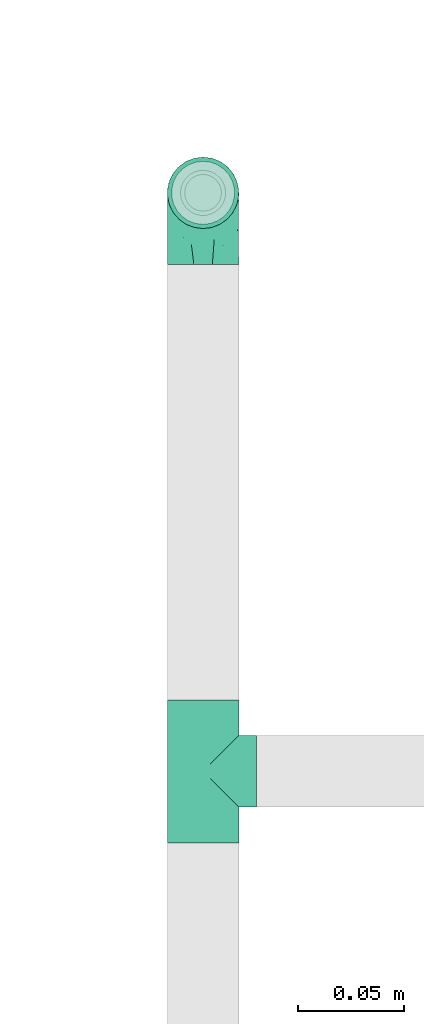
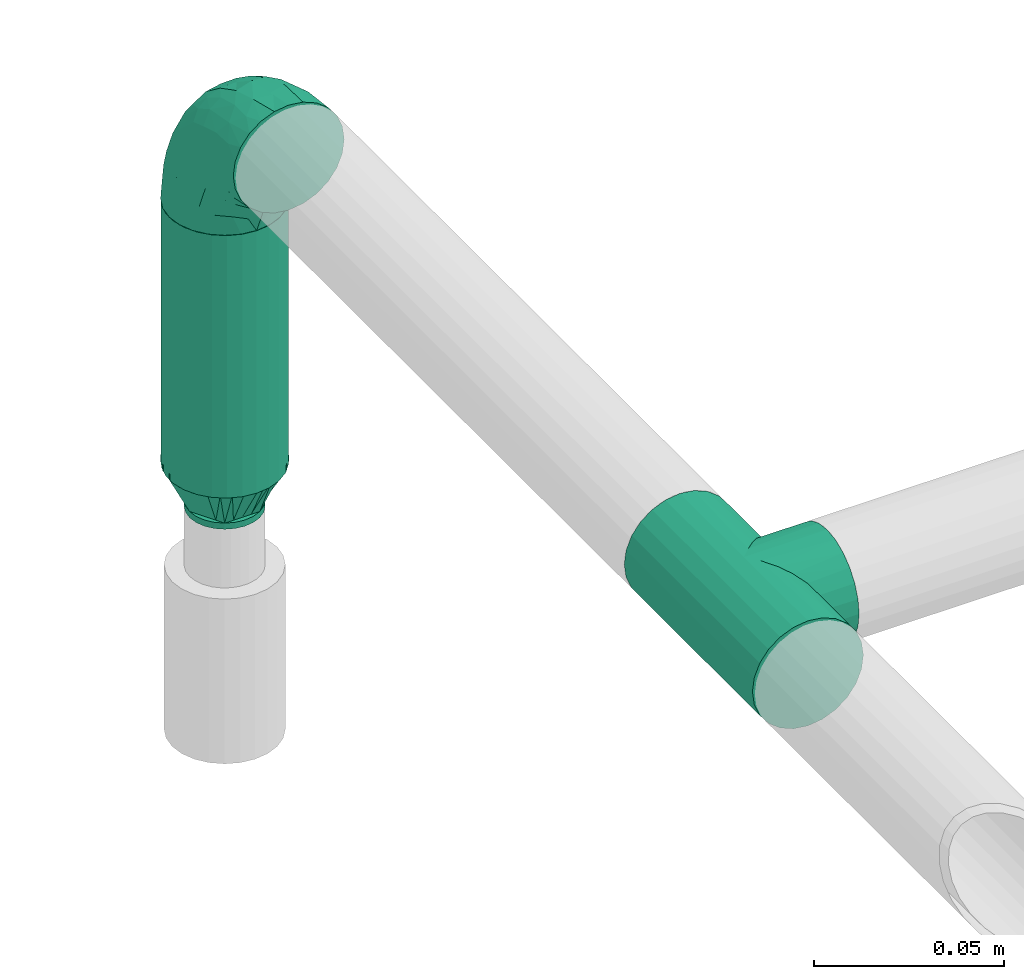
# One storey, part 37 of 43: 3 flow fittings, 1 flow segment.
"""IFC2X3 building model written with IfcOpenShell, lengths in millimetres."""

from ifc_helpers import new_model, entity, si_unit, converted_unit, derived_unit, direction, frame, origin_with_axes, origin_2d_with_axis, place, context, subcontext, project, spatial, hollow_circle, extrude, open_shell, surface_model, source, transform, mapped, type_object, element, save


model = new_model("IFC2X3")

# Units and contexts
model_context = context("Model", 3, precision=0.01, world=frame((0.0, 4.29681676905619e-09, 0.0)), true_north=direction((4.01073788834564e-13, 1.0)))
plan_context = context("Plan", 3, precision=0.01, world=frame((0.0, 4.29681676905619e-09, 0.0)), true_north=direction((4.01073788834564e-13, 1.0)))
body_context = subcontext(model_context, "Body", "Model", "MODEL_VIEW")
ifc_project = project(units=[converted_unit("PLANEANGLEUNIT", "DEGREE", entity("IfcPositiveLengthMeasure", 0.0174532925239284), si_unit("PLANEANGLEUNIT", "RADIAN"), dimensions=[0, 0, 0, 0, 0, 0, 0]), si_unit("AREAUNIT", "SQUARE_METRE"), si_unit("LENGTHUNIT", "METRE", prefix="MILLI"), si_unit("MASSUNIT", "GRAM", prefix="KILO"), si_unit("POWERUNIT", "WATT"), si_unit("PRESSUREUNIT", "PASCAL"), si_unit("FORCEUNIT", "NEWTON", prefix="KILO"), si_unit("ELECTRICVOLTAGEUNIT", "VOLT"), si_unit("ELECTRICCURRENTUNIT", "AMPERE"), si_unit("THERMODYNAMICTEMPERATUREUNIT", "DEGREE_CELSIUS"), si_unit("TIMEUNIT", "SECOND"), si_unit("VOLUMEUNIT", "CUBIC_METRE"), derived_unit("LINEARVELOCITYUNIT", [(si_unit("LENGTHUNIT", "METRE"), 1), (si_unit("TIMEUNIT", "SECOND"), -1)]), derived_unit("VOLUMETRICFLOWRATEUNIT", [(si_unit("VOLUMEUNIT", "CUBIC_METRE"), 1), (si_unit("TIMEUNIT", "SECOND"), -1)]), derived_unit("THERMALTRANSMITTANCEUNIT", [(si_unit("POWERUNIT", "WATT"), 1), (si_unit("THERMODYNAMICTEMPERATUREUNIT", "KELVIN"), -1), (si_unit("AREAUNIT", "SQUARE_METRE"), -1)]), derived_unit("SOUNDPRESSUREUNIT", [(si_unit("PRESSUREUNIT", "PASCAL"), 1)])], contexts=[model_context, plan_context])

# Site, building, storey
site_placement = place(None, frame((0.0, -4.29681676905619e-09, 0.0), z_axis=(0.0, 0.0, 1.0), x_axis=(1.0, 0.0, 0.0)))
site = spatial("IfcSite", under=ifc_project, at=site_placement, CompositionType="ELEMENT")
building_placement = place(site_placement, frame((0.0, 4.29681676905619e-09, 0.0), z_axis=(0.0, 0.0, 1.0), x_axis=(1.0, 0.0, 0.0)))
building = spatial("IfcBuilding", under=site, at=building_placement, Name="mc-building", CompositionType="ELEMENT")
storey_placement = place(building_placement, frame((0.0, 0.0, 210900.0), z_axis=(0.0, 0.0, 1.0), x_axis=(1.0, 0.0, 0.0)))
storey = spatial("IfcBuildingStorey", under=building, at=storey_placement, Name="Nivå F", CompositionType="ELEMENT", Elevation=210900.0)

# Flow fittings
pipe_fitting_type_1 = type_object("IfcPipeFittingType", Name="magi_pipe_fe_elbow_short_001", PredefinedType="BEND")
shared_shape_1 = source(origin_with_axes(), body_context, "Body", "SurfaceModel", [
    surface_model("IfcShellBasedSurfaceModel", [(-33.8, 4.37404, -16.32415), (-33.8, 0.0, -16.9), (-33.8, 11.9501, -11.9501), (-33.8, 8.45, -14.63583), (-33.8, 16.32415, -4.37404), (-33.8, 14.63583, -8.45), (-33.8, -14.63583, -8.45), (-33.8, -16.32415, -4.37404), (-33.8, -8.45, 14.63583), (-33.8, -11.9501, -11.9501), (-33.8, -8.45, -14.63583), (-33.8, -4.37404, -16.32415), (-33.8, -16.9, 0.0), (-33.8, -16.32415, 4.37404), (-33.8, 11.9501, 11.9501), (-33.8, 14.63583, 8.45), (-33.8, 16.32415, 4.37404), (-33.8, 4.37404, 16.32415), (-33.8, 8.45, 14.63583), (-33.8, -14.63583, 8.45), (-33.8, -11.9501, 11.9501), (-33.8, -4.37404, 16.32415), (-33.8, 0.0, 16.9), (-33.8, 16.9, 0.0), (-11.9501, 33.8, -11.9501), (0.0, 33.8, -16.9), (-4.37404, 33.8, -16.32415), (-8.45, 33.8, -14.63583), (-14.63583, 33.8, -8.45), (-16.32415, 33.8, -4.37404), (14.63583, 33.8, -8.45), (8.45, 33.8, 14.63583), (16.32415, 33.8, -4.37404), (8.45, 33.8, -14.63583), (11.9501, 33.8, -11.9501), (4.37404, 33.8, -16.32415), (16.32415, 33.8, 4.37404), (16.9, 33.8, 0.0), (-11.9501, 33.8, 11.9501), (-16.32415, 33.8, 4.37404), (-14.63583, 33.8, 8.45), (-8.45, 33.8, 14.63583), (-4.37404, 33.8, 16.32415), (11.9501, 33.8, 11.9501), (14.63583, 33.8, 8.45), (0.0, 33.8, 16.9), (4.37404, 33.8, 16.32415), (-16.9, 33.8, 0.0), (-24.79389, -13.12945, 9.48721), (-22.19287, -9.75018, 12.59315), (-24.09897, -14.97035, 0.0), (-14.93934, -10.76256, 8.5297), (-22.46095, -14.75051, 5.27077), (14.75051, 22.46094, 5.27077), (11.9251, 13.23888, 4.33236), (13.04069, 14.39795, 0.0), (7.71387, 13.68847, 11.55891), (9.75018, 22.19287, 12.59315), (4.10169, 13.0571, 14.04018), (-24.84007, -6.39063, 15.2048), (-25.81779, -2.23879, 16.61097), (-23.66549, 2.59054, 16.87119), (-26.50418, 14.06512, 11.08152), (-24.21253, 17.66365, 7.72657), (-29.58514, 15.86957, 7.00283), (-6.17382, -7.5455, 0.0), (-13.23888, -11.9251, 4.33236), (-14.39795, -13.04069, 0.0), (-17.81434, 18.87373, 11.97104), (-6.30846, 29.15138, 15.82987), (-2.31622, 25.28002, 16.85849), (-29.23923, 10.23435, 13.77053), (-1.45439, -2.85688, 7.61475), (-0.28326, 0.34872, 10.09509), (-5.74484, -4.04709, 10.4122), (-4.41137, 11.31918, 16.59407), (-8.39727, 3.10034, 15.7812), (-1.72649, 9.1306, 15.53089), (-17.39909, 24.75344, 7.64977), (-26.19233, 20.0512, 0.0), (-28.14518, 17.29657, 4.25857), (-26.05147, 6.6281, 15.96447), (-5.87354, 16.61944, 16.86968), (-12.51807, 12.51807, 16.48937), (-10.06312, 7.38516, 16.81295), (-3.01882, 3.01882, 13.81718), (-13.0571, -4.10169, 14.04018), (-16.82553, -0.15166, 16.38038), (10.76256, 14.93934, 8.5297), (13.12945, 24.79389, 9.48721), (6.39063, 24.84007, 15.2048), (2.23879, 25.81779, 16.61097), (-13.68847, -7.71387, 11.55891), (14.97035, 24.09897, 0.0), (-7.30894, 22.89991, 16.09489), (-10.67958, 26.17414, 14.008), (-12.78295, 18.26924, 15.06066), (-13.88562, 22.45231, 12.93244), (-18.04944, 15.16501, 14.04434), (-23.11658, 20.08178, 4.02986), (-21.84989, 21.84989, 0.0), (-18.55817, 25.48277, 3.93065), (-13.95142, 26.94732, 11.03289), (-18.57098, 7.23906, 16.59756), (-16.58335, 4.14122, 16.89279), (-17.96666, 11.46709, 15.63151), (-9.84453, 17.54304, 16.18938), (0.15166, 16.82553, 16.38038), (-23.27207, 11.47201, 14.23154), (3.84842, 5.86994, 10.70473), (-8.0212, -7.54413, 7.93275), (1.00345, -2.19508, 4.57414), (5.13203, 3.01004, 5.90201), (5.24161, 1.7543, 2.53265), (8.70457, 7.04947, 3.99182), (-20.0512, 26.19233, 0.0), (8.4852, 8.76699, 7.09296), (-4.55488, -6.72064, 4.90681), (2.05031, -2.05031, 0.0), (7.5455, 6.17382, 0.0), (-26.75399, 2.1369, -16.845), (-14.61995, 24.73803, -11.27736), (-28.45274, -13.45335, -9.81895), (-26.00469, 6.63555, -15.96645), (-23.06726, 20.04573, -4.26202), (-13.80647, -4.26506, -14.17873), (-14.67501, -0.21081, -16.07388), (-6.7902, -0.2828, -13.8478), (-24.53586, 11.08096, -14.13417), (-26.72048, 14.00837, -11.05776), (10.0967, 24.44989, -12.75976), (5.83237, 21.40218, -15.03047), (6.66249, 28.54238, -15.38093), (-20.38182, 15.48705, -12.74596), (-15.65186, 19.64213, -13.01327), (-12.03528, 20.66498, -14.67665), (-15.61907, 15.61906, -14.83879), (-25.56551, -15.26206, 0.0), (-24.65452, -15.12934, -5.50955), (12.53268, 21.23441, -9.15363), (13.45335, 28.45274, -9.81895), (15.12934, 24.65452, -5.50955), (-7.35442, -8.31014, -5.65563), (-15.67504, -12.54494, -5.54878), (-24.44989, -10.0967, -12.75976), (0.16522, 0.41303, -9.71728), (-5.70658, -5.33066, -8.89288), (-5.13869, -2.37198, -11.53565), (-21.23441, -12.53268, -9.15363), (0.71146, 7.93863, -14.09382), (0.21081, 14.67501, -16.07388), (3.49291, 14.42772, -14.76381), (-24.89911, -2.13088, -16.591), (-28.54238, -6.66249, -15.38093), (-18.44386, -7.71663, -13.26957), (2.13088, 24.89911, -16.591), (-28.64342, 17.44413, -2.89318), (1.70017, -1.28722, -5.09504), (-16.57067, 26.81947, -7.36596), (-17.69055, 27.4263, -3.76405), (-12.89279, -9.7522, -8.66343), (-5.96611, 5.96611, -15.95814), (-20.53709, 20.09345, -8.28985), (-2.1369, 26.75399, -16.845), (-6.89872, 24.58781, -16.02578), (-10.60739, 26.53157, -13.98044), (-21.40218, -5.83237, -15.03047), (2.93192, 5.89627, -11.55917), (6.89393, 12.61842, -11.82233), (5.58056, 5.95325, -8.79455), (-3.99512, 18.61798, -16.89635), (-9.1383, 9.86148, -16.89041), (-9.99983, 16.02119, -16.39699), (-16.68576, 9.78031, -16.34199), (-27.01915, 16.61158, -7.12979), (15.26206, 25.56551, 0.0), (-18.61798, 3.99512, -16.89635), (-19.37495, 27.82495, 0.0), (9.7522, 12.89279, -8.66343), (-12.61842, -6.89393, -11.82233), (8.31014, 7.35442, -5.65563), (-18.84705, 19.14018, -10.96545), (12.54494, 15.67504, -5.54878)], [open_shell([[[0, 1, 2]], [[3, 0, 2]], [[4, 5, 2]], [[6, 2, 1]], [[2, 7, 8]], [[9, 6, 10]], [[1, 11, 10]], [[10, 6, 1]], [[2, 6, 7]], [[12, 13, 7]], [[4, 2, 14]], [[4, 15, 16]], [[4, 14, 15]], [[17, 18, 14]], [[14, 2, 8]], [[17, 14, 8]], [[19, 20, 13]], [[20, 7, 13]], [[21, 22, 8]], [[20, 8, 7]], [[8, 22, 17]], [[4, 16, 23]], [[24, 25, 26]], [[24, 26, 27]], [[24, 28, 29]], [[25, 24, 30]], [[31, 32, 24]], [[33, 30, 34]], [[33, 35, 25]], [[25, 30, 33]], [[32, 30, 24]], [[32, 36, 37]], [[38, 24, 29]], [[39, 40, 29]], [[40, 38, 29]], [[38, 41, 42]], [[38, 31, 24]], [[31, 38, 42]], [[36, 43, 44]], [[36, 32, 43]], [[31, 45, 46]], [[32, 31, 43]], [[42, 45, 31]], [[39, 29, 47]], [[20, 48, 49]], [[13, 12, 50]], [[51, 48, 52]], [[53, 54, 55]], [[48, 20, 19]], [[13, 52, 19]], [[56, 57, 58]], [[49, 8, 20]], [[49, 59, 8]], [[22, 60, 61]], [[62, 63, 64]], [[65, 66, 67]], [[57, 43, 31]], [[62, 68, 63]], [[42, 69, 70]], [[18, 71, 14]], [[21, 60, 22]], [[72, 73, 74]], [[75, 76, 77]], [[14, 62, 15]], [[40, 39, 78]], [[79, 23, 80]], [[64, 16, 15]], [[22, 61, 17]], [[17, 81, 18]], [[82, 83, 84]], [[74, 85, 86]], [[59, 86, 87]], [[88, 89, 57]], [[90, 31, 46]], [[44, 53, 36]], [[46, 45, 91]], [[54, 53, 88]], [[44, 89, 53]], [[92, 86, 49]], [[89, 44, 43]], [[8, 59, 21]], [[53, 55, 93]], [[93, 36, 53]], [[66, 52, 67]], [[94, 82, 70]], [[95, 96, 94]], [[97, 98, 96]], [[79, 99, 100]], [[41, 38, 95]], [[101, 100, 99]], [[68, 78, 63]], [[42, 41, 69]], [[23, 16, 80]], [[95, 94, 69]], [[78, 101, 99]], [[38, 102, 95]], [[70, 45, 42]], [[97, 95, 102]], [[13, 50, 52]], [[90, 57, 31]], [[57, 90, 58]], [[81, 17, 61]], [[103, 104, 84]], [[105, 81, 103]], [[38, 40, 102]], [[106, 96, 83]], [[94, 106, 82]], [[91, 70, 107]], [[71, 62, 14]], [[62, 108, 98]], [[86, 59, 49]], [[67, 52, 50]], [[60, 59, 87]], [[92, 49, 51]], [[86, 85, 76]], [[91, 90, 46]], [[37, 36, 93]], [[107, 77, 58]], [[107, 58, 90]], [[58, 85, 109]], [[110, 74, 92]], [[72, 74, 110]], [[66, 51, 52]], [[72, 111, 112]], [[113, 114, 112]], [[56, 88, 57]], [[52, 48, 19]], [[49, 48, 51]], [[57, 89, 43]], [[53, 89, 88]], [[103, 81, 61]], [[71, 81, 108]], [[16, 64, 80]], [[63, 78, 99]], [[47, 115, 101]], [[101, 115, 100]], [[40, 78, 102]], [[68, 102, 78]], [[97, 96, 95]], [[105, 98, 108]], [[103, 84, 83]], [[107, 70, 82]], [[76, 84, 87]], [[82, 84, 75]], [[70, 91, 45]], [[90, 91, 107]], [[59, 60, 21]], [[61, 60, 87]], [[73, 85, 74]], [[109, 112, 116]], [[103, 61, 104]], [[105, 103, 83]], [[96, 105, 83]], [[81, 105, 108]], [[96, 98, 105]], [[62, 98, 68]], [[61, 87, 104]], [[87, 84, 104]], [[86, 76, 87]], [[77, 76, 85]], [[58, 77, 85]], [[75, 77, 107]], [[82, 75, 107]], [[76, 75, 84]], [[81, 71, 18]], [[62, 71, 108]], [[95, 69, 41]], [[70, 69, 94]], [[62, 64, 15]], [[80, 63, 99]], [[63, 80, 64]], [[80, 99, 79]], [[66, 65, 117]], [[110, 66, 117]], [[112, 114, 116]], [[118, 117, 65]], [[110, 92, 51]], [[112, 111, 113]], [[119, 55, 54]], [[74, 86, 92]], [[58, 109, 56]], [[116, 56, 109]], [[66, 110, 51]], [[72, 110, 117]], [[111, 72, 117]], [[73, 112, 109]], [[117, 118, 111]], [[113, 111, 118]], [[118, 119, 113]], [[114, 119, 54]], [[119, 114, 113]], [[116, 54, 88]], [[54, 116, 114]], [[116, 88, 56]], [[112, 73, 72]], [[85, 73, 109]], [[78, 39, 101]], [[47, 101, 39]], [[102, 68, 97]], [[97, 68, 98]], [[82, 106, 83]], [[94, 96, 106]], [[0, 120, 1]], [[28, 24, 121]], [[9, 122, 6]], [[3, 123, 0]], [[100, 124, 79]], [[125, 126, 127]], [[128, 2, 129]], [[130, 131, 132]], [[128, 129, 133]], [[134, 135, 136]], [[128, 3, 2]], [[67, 137, 138]], [[139, 140, 141]], [[138, 7, 6]], [[142, 65, 143]], [[144, 9, 10]], [[145, 146, 147]], [[143, 138, 148]], [[149, 150, 151]], [[152, 11, 1]], [[10, 153, 144]], [[148, 144, 154]], [[153, 10, 11]], [[35, 155, 25]], [[23, 79, 156]], [[146, 157, 142]], [[158, 159, 29]], [[143, 160, 142]], [[161, 150, 149]], [[29, 28, 158]], [[121, 162, 158]], [[33, 34, 130]], [[25, 163, 26]], [[26, 163, 164]], [[140, 34, 30]], [[24, 27, 165]], [[124, 159, 162]], [[155, 35, 132]], [[153, 152, 166]], [[123, 3, 128]], [[167, 168, 169]], [[170, 155, 150]], [[26, 164, 27]], [[132, 35, 33]], [[140, 130, 34]], [[166, 152, 126]], [[133, 134, 136]], [[2, 5, 129]], [[168, 131, 130]], [[30, 32, 141]], [[170, 171, 172]], [[173, 123, 128]], [[156, 174, 4]], [[165, 27, 164]], [[172, 164, 170]], [[134, 165, 135]], [[122, 138, 6]], [[137, 12, 7]], [[32, 37, 175]], [[168, 130, 139]], [[150, 155, 131]], [[163, 155, 170]], [[151, 168, 149]], [[150, 161, 171]], [[166, 125, 154]], [[122, 144, 148]], [[120, 152, 1]], [[176, 171, 126]], [[176, 126, 152]], [[126, 161, 127]], [[160, 143, 148]], [[137, 7, 138]], [[32, 175, 141]], [[55, 141, 175]], [[174, 129, 5]], [[128, 133, 136]], [[173, 128, 136]], [[120, 123, 176]], [[121, 158, 28]], [[159, 100, 177]], [[164, 172, 135]], [[121, 24, 165]], [[159, 47, 29]], [[79, 124, 156]], [[124, 162, 174]], [[159, 124, 100]], [[178, 169, 168]], [[127, 161, 149]], [[145, 169, 157]], [[146, 142, 160]], [[127, 149, 167]], [[127, 179, 125]], [[129, 174, 162]], [[5, 4, 174]], [[157, 65, 142]], [[67, 138, 143]], [[123, 120, 0]], [[152, 120, 176]], [[155, 163, 25]], [[164, 163, 170]], [[170, 150, 171]], [[173, 136, 172]], [[126, 171, 161]], [[173, 171, 176]], [[171, 173, 172]], [[123, 173, 176]], [[148, 179, 160]], [[127, 147, 179]], [[179, 146, 160]], [[157, 146, 145]], [[169, 178, 180]], [[168, 139, 178]], [[157, 169, 180]], [[169, 145, 167]], [[167, 145, 147]], [[149, 168, 167]], [[162, 181, 129]], [[181, 121, 134]], [[179, 147, 146]], [[167, 147, 127]], [[181, 134, 133]], [[165, 134, 121]], [[164, 135, 165]], [[172, 136, 135]], [[129, 181, 133]], [[121, 181, 162]], [[159, 158, 162]], [[47, 159, 177]], [[174, 156, 124]], [[23, 156, 4]], [[130, 132, 33]], [[155, 132, 131]], [[141, 140, 30]], [[130, 140, 139]], [[152, 153, 11]], [[144, 153, 166]], [[144, 122, 9]], [[138, 122, 148]], [[150, 131, 151]], [[157, 119, 118]], [[67, 143, 65]], [[168, 151, 131]], [[119, 157, 180]], [[157, 118, 65]], [[154, 125, 179]], [[126, 125, 166]], [[148, 154, 179]], [[166, 154, 144]], [[139, 182, 178]], [[141, 182, 139]], [[178, 182, 180]], [[182, 55, 119]], [[141, 55, 182]], [[182, 119, 180]]])]),
])
flow_fitting_1_placement = place(storey_placement, frame((609473.7578, 698191.25347, 2660.0), z_axis=(1.0, 0.0, 0.0), x_axis=(0.0, 0.0, 1.0)))
element("IfcFlowFitting", 1, at=flow_fitting_1_placement, inside=storey, type_object=pipe_fitting_type_1, Name="magi_pipe_fe_elbow_short_001", context=body_context, shape_type="MappedRepresentation", body=[
    mapped(shared_shape_1, transform((0.0, 0.0, 0.0), scale=1.0)),
])
pipe_fitting_type_2 = type_object("IfcPipeFittingType", Name="magi_pipe_fe_tee_centric_90_NOR", PredefinedType="JUNCTION")
shared_shape_2 = source(origin_with_axes(), body_context, "Body", "SurfaceModel", [
    surface_model("IfcShellBasedSurfaceModel", [(-33.8, 8.45, -14.63583), (-33.8, 4.37404, -16.32415), (-33.8, 11.9501, -11.9501), (-33.8, -11.9501, -11.9501), (-33.8, -14.63583, -8.45), (-33.8, -8.45, -14.63583), (-33.8, 0.0, -16.9), (-33.8, -4.37404, -16.32415), (-33.8, -4.37404, 16.32415), (-33.8, 0.0, 16.9), (-33.8, -8.45, 14.63583), (-33.8, 16.32415, -4.37404), (-33.8, 14.63583, -8.45), (-33.8, -16.9, 0.0), (-33.8, -16.32415, -4.37404), (-33.8, 14.63583, 8.45), (-33.8, 16.32415, 4.37404), (-33.8, 8.45, 14.63583), (-33.8, 11.9501, 11.9501), (-33.8, 4.37404, 16.32415), (-33.8, -11.9501, 11.9501), (-33.8, -14.63583, 8.45), (-33.8, -16.32415, 4.37404), (-33.8, 16.9, 0.0), (33.8, 4.37404, -16.32415), (33.8, -16.9, 0.0), (33.8, 0.0, -16.9), (33.8, 14.63583, -8.45), (33.8, 8.45, -14.63583), (33.8, 16.32415, -4.37404), (33.8, 11.9501, -11.9501), (33.8, -16.32415, 4.37404), (33.8, -8.45, -14.63583), (33.8, -4.37404, -16.32415), (33.8, -11.9501, -11.9501), (33.8, -14.63583, -8.45), (33.8, -16.32415, -4.37404), (33.8, 16.32415, 4.37404), (33.8, 8.45, 14.63583), (33.8, 14.63583, 8.45), (33.8, 11.9501, 11.9501), (33.8, -8.45, 14.63583), (33.8, 4.37404, 16.32415), (33.8, -14.63583, 8.45), (33.8, -11.9501, 11.9501), (33.8, 0.0, 16.9), (33.8, -4.37404, 16.32415), (33.8, 16.9, 0.0), (16.28698, -16.28698, 4.51047), (16.9, -16.9, 0.0), (14.62704, -14.62704, 8.4652), (9.47213, -9.47213, 13.99602), (12.26343, -12.26343, 11.62834), (-16.9, -16.9, 0.0), (-16.28698, -16.28698, 4.51047), (-14.62704, -14.62704, 8.4652), (-12.26343, -12.26343, 11.62834), (-9.47213, -9.47213, 13.99602), (-6.42894, -6.42894, 15.62942), (6.42894, -6.42894, 15.62942), (3.24522, -3.24522, 16.58549), (0.0, 0.0, 16.9), (-3.24522, -3.24522, 16.58549), (3.24522, -3.24522, -16.58549), (0.0, 0.0, -16.9), (-3.24522, -3.24522, -16.58549), (-6.42894, -6.42894, -15.62942), (6.42894, -6.42894, -15.62942), (9.47213, -9.47213, -13.99602), (12.26343, -12.26343, -11.62834), (14.62704, -14.62704, -8.4652), (16.28698, -16.28698, -4.51047), (-9.47213, -9.47213, -13.99602), (-12.26343, -12.26343, -11.62834), (-16.28698, -16.28698, -4.51047), (-14.62704, -14.62704, -8.4652), (4.37404, -25.35, -16.32415), (-16.9, -25.35, 0.0), (0.0, -25.35, -16.9), (14.63583, -25.35, -8.45), (8.45, -25.35, -14.63583), (16.32415, -25.35, -4.37404), (11.9501, -25.35, -11.9501), (-11.9501, -25.35, -11.9501), (-8.45, -25.35, -14.63583), (-4.37404, -25.35, -16.32415), (-14.63583, -25.35, -8.45), (-16.32415, -25.35, -4.37404), (16.9, -25.35, 0.0), (8.45, -25.35, 14.63583), (16.32415, -25.35, 4.37404), (14.63583, -25.35, 8.45), (-8.45, -25.35, 14.63583), (11.9501, -25.35, 11.9501), (4.37404, -25.35, 16.32415), (-16.32415, -25.35, 4.37404), (-11.9501, -25.35, 11.9501), (-14.63583, -25.35, 8.45), (0.0, -25.35, 16.9), (-4.37404, -25.35, 16.32415)], [open_shell([[[0, 1, 2]], [[3, 4, 5]], [[6, 7, 5]], [[8, 9, 10]], [[1, 6, 11]], [[1, 11, 12]], [[2, 1, 12]], [[13, 11, 6]], [[14, 13, 4]], [[6, 5, 4]], [[6, 4, 13]], [[13, 15, 11]], [[15, 16, 11]], [[10, 15, 13]], [[15, 10, 17]], [[18, 15, 17]], [[19, 17, 9]], [[20, 10, 21]], [[22, 21, 10]], [[10, 13, 22]], [[10, 9, 17]], [[23, 11, 16]], [[24, 25, 26]], [[27, 24, 28]], [[27, 29, 24]], [[27, 28, 30]], [[31, 25, 24]], [[26, 32, 33]], [[26, 34, 32]], [[35, 25, 36]], [[35, 34, 26]], [[25, 35, 26]], [[24, 29, 31]], [[29, 37, 38]], [[38, 37, 39]], [[38, 31, 29]], [[38, 39, 40]], [[41, 38, 42]], [[43, 41, 44]], [[41, 43, 31]], [[41, 45, 46]], [[41, 31, 38]], [[42, 45, 41]], [[29, 47, 37]], [[31, 43, 48]], [[25, 31, 49]], [[49, 31, 48]], [[43, 50, 48]], [[44, 41, 51]], [[50, 43, 52]], [[51, 52, 44]], [[52, 43, 44]], [[53, 54, 22]], [[53, 22, 13]], [[22, 54, 21]], [[54, 55, 21]], [[56, 57, 20]], [[20, 21, 56]], [[20, 57, 10]], [[56, 21, 55]], [[10, 57, 58]], [[51, 41, 59]], [[60, 45, 61]], [[59, 46, 60]], [[46, 59, 41]], [[60, 46, 45]], [[61, 45, 42]], [[39, 37, 16]], [[18, 38, 40]], [[15, 40, 39]], [[42, 38, 17]], [[23, 37, 47]], [[62, 61, 9]], [[62, 8, 58]], [[8, 62, 9]], [[58, 8, 10]], [[61, 19, 9]], [[42, 19, 61]], [[17, 19, 42]], [[17, 38, 18]], [[15, 18, 40]], [[16, 15, 39]], [[37, 23, 16]], [[12, 27, 30]], [[23, 47, 29]], [[30, 28, 0]], [[27, 11, 29]], [[26, 33, 63]], [[26, 64, 24]], [[64, 26, 63]], [[28, 24, 1]], [[64, 1, 24]], [[2, 30, 0]], [[11, 27, 12]], [[12, 30, 2]], [[11, 23, 29]], [[65, 66, 7]], [[6, 1, 64]], [[6, 65, 7]], [[66, 5, 7]], [[1, 0, 28]], [[6, 64, 65]], [[63, 33, 67]], [[32, 34, 68]], [[69, 68, 34]], [[35, 70, 69]], [[69, 34, 35]], [[32, 68, 67]], [[36, 25, 49]], [[36, 71, 35]], [[71, 36, 49]], [[35, 71, 70]], [[72, 5, 66]], [[72, 3, 5]], [[3, 72, 73]], [[3, 73, 4]], [[74, 53, 14]], [[75, 74, 4]], [[74, 14, 4]], [[14, 53, 13]], [[75, 4, 73]], [[32, 67, 33]], [[76, 77, 78]], [[79, 76, 80]], [[79, 81, 76]], [[79, 80, 82]], [[77, 76, 81]], [[78, 83, 84]], [[84, 85, 78]], [[86, 77, 87]], [[83, 78, 86]], [[77, 86, 78]], [[81, 88, 77]], [[89, 88, 90]], [[89, 90, 91]], [[92, 77, 89]], [[89, 91, 93]], [[92, 89, 94]], [[95, 96, 97]], [[96, 95, 92]], [[92, 98, 99]], [[95, 77, 92]], [[94, 98, 92]], [[89, 77, 88]], [[77, 95, 53]], [[54, 53, 95]], [[97, 96, 56]], [[96, 92, 57]], [[95, 97, 54]], [[58, 92, 99]], [[55, 54, 97]], [[56, 55, 97]], [[58, 57, 92]], [[98, 61, 62]], [[58, 99, 62]], [[56, 96, 57]], [[62, 99, 98]], [[94, 60, 98]], [[89, 59, 94]], [[91, 90, 48]], [[52, 93, 91]], [[93, 51, 89]], [[49, 90, 88]], [[59, 60, 94]], [[51, 59, 89]], [[49, 48, 90]], [[50, 52, 91]], [[48, 50, 91]], [[51, 93, 52]], [[98, 60, 61]], [[88, 81, 49]], [[71, 49, 81]], [[79, 82, 69]], [[82, 80, 68]], [[81, 79, 71]], [[67, 80, 76]], [[70, 71, 79]], [[69, 70, 79]], [[67, 68, 80]], [[78, 64, 63]], [[67, 76, 63]], [[69, 82, 68]], [[63, 76, 78]], [[85, 65, 78]], [[84, 66, 85]], [[86, 87, 74]], [[86, 73, 83]], [[72, 84, 83]], [[53, 87, 77]], [[66, 65, 85]], [[72, 66, 84]], [[53, 74, 87]], [[75, 73, 86]], [[74, 75, 86]], [[72, 83, 73]], [[78, 65, 64]]])]),
])
flow_fitting_2_placement = place(storey_placement, frame((609473.7578, 697917.47996, 2660.0), z_axis=(0.0, 0.0, -1.0), x_axis=(0.0, -1.0, 0.0)))
element("IfcFlowFitting", 2, at=flow_fitting_2_placement, inside=storey, type_object=pipe_fitting_type_2, Name="magi_pipe_fe_tee_centric_90_NOR", context=body_context, shape_type="MappedRepresentation", body=[
    mapped(shared_shape_2, transform((0.0, 0.0, 0.0), scale=1.0)),
])
pipe_fitting_type_3 = type_object("IfcPipeFittingType", Name="magi_pipe_fe_reducer_centric_short_NOR", PredefinedType="TRANSITION")
shared_shape_3 = source(origin_with_axes(), body_context, "Body", "SurfaceModel", [
    surface_model("IfcShellBasedSurfaceModel", [(14.4, 4.37404, -16.32415), (14.4, 8.45, -14.63583), (14.4, 11.9501, -11.9501), (14.4, -8.45, -14.63583), (14.4, 16.32415, -4.37404), (14.4, 16.32415, 4.37404), (14.4, 14.63583, -8.45), (14.4, 0.0, -16.9), (14.4, -4.37404, -16.32415), (14.4, -11.9501, -11.9501), (14.4, -16.32415, -4.37404), (14.4, -14.63583, -8.45), (14.4, -16.32415, 4.37404), (14.4, 16.9, 0.0), (14.4, 14.63583, 8.45), (14.4, 11.9501, 11.9501), (14.4, 4.37404, 16.32415), (14.4, 8.45, 14.63583), (14.4, 0.0, 16.9), (14.4, -14.63583, 8.45), (14.4, -16.9, 0.0), (14.4, -8.45, 14.63583), (14.4, -11.9501, 11.9501), (14.4, -4.37404, 16.32415), (12.4, 4.37404, 16.32415), (12.4, -14.63583, 8.45), (12.4, 0.0, 16.9), (12.4, 16.32415, 4.37404), (12.4, 8.45, 14.63583), (12.4, 11.9501, 11.9501), (12.4, 14.63583, 8.45), (12.4, -8.45, 14.63583), (12.4, -11.9501, 11.9501), (12.4, -4.37404, 16.32415), (12.4, -16.32415, 4.37404), (12.4, -16.32415, -4.37404), (12.4, -16.9, 0.0), (12.4, -8.45, -14.63583), (12.4, 16.32415, -4.37404), (12.4, 11.9501, -11.9501), (12.4, 14.63583, -8.45), (12.4, 8.45, -14.63583), (12.4, 4.37404, -16.32415), (12.4, 0.0, -16.9), (12.4, -11.9501, -11.9501), (12.4, -14.63583, -8.45), (12.4, -4.37404, -16.32415), (12.4, 16.9, 0.0), (-2.0, 10.33541, 2.76936), (-2.0, 0.0, 10.7), (-2.0, 2.76936, 10.33541), (-2.0, 7.56604, 7.56604), (-2.0, 5.35, 9.26647), (-2.0, 9.26647, 5.35), (-2.0, -9.26647, 5.35), (-2.0, -2.76936, 10.33541), (-2.0, -7.56604, 7.56604), (-2.0, -5.35, 9.26647), (-2.0, -10.33541, 2.76936), (-2.0, -10.33541, -2.76936), (-2.0, -10.7, 0.0), (-2.0, 10.33541, -2.76936), (-2.0, 7.56604, -7.56604), (-2.0, 9.26647, -5.35), (-2.0, 5.35, -9.26647), (-2.0, -5.35, -9.26647), (-2.0, 2.76936, -10.33541), (-2.0, -7.56604, -7.56604), (-2.0, -9.26647, -5.35), (-2.0, 0.0, -10.7), (-2.0, -2.76936, -10.33541), (-2.0, 10.7, 0.0), (0.0, 5.35, -9.26647), (0.0, 0.0, -10.7), (0.0, 2.76936, -10.33541), (0.0, 10.33541, -2.76936), (0.0, 7.56604, -7.56604), (0.0, -5.35, -9.26647), (0.0, 9.26647, -5.35), (0.0, -9.26647, 5.35), (0.0, -2.76936, -10.33541), (0.0, -7.56604, -7.56604), (0.0, -10.33541, -2.76936), (0.0, -9.26647, -5.35), (0.0, 10.33541, 2.76936), (0.0, 10.7, 0.0), (0.0, 9.26647, 5.35), (0.0, 7.56604, 7.56604), (0.0, 2.76936, 10.33541), (0.0, 0.0, 10.7), (0.0, 5.35, 9.26647), (0.0, -10.33541, 2.76936), (0.0, -10.7, 0.0), (0.0, -7.56604, 7.56604), (0.0, -2.76936, 10.33541), (0.0, -5.35, 9.26647), (0.0, -9.3625, -2.31662), (12.4, -14.42505, -5.97505), (12.4, -15.66253, -2.98753), (0.0, 6.6875, -6.94985), (12.4, 8.96258, -13.18758), (0.0, -6.6875, -6.94985), (12.4, -8.96258, -13.18758), (0.0, 9.3625, -2.31662), (12.4, 15.66253, -2.98753), (12.4, 14.42505, -5.97505), (12.4, -5.97505, -14.42505), (12.4, 5.97505, -14.42505), (0.0, 2.675, -9.26647), (12.4, 13.18758, -8.96258), (0.0, -2.675, -9.26647), (12.4, -13.18758, -8.96258), (0.0, -8.025, -4.63324), (12.4, 2.98753, -15.66253), (0.0, 0.0, -9.26647), (12.4, -2.98753, -15.66253), (0.0, 8.025, -4.63324), (0.0, 9.3625, 2.31662), (12.4, 14.42505, 5.97505), (12.4, 15.66253, 2.98753), (0.0, -6.6875, 6.94985), (12.4, -8.96258, 13.18758), (0.0, 6.6875, 6.94985), (12.4, 8.96258, 13.18758), (0.0, -9.3625, 2.31662), (12.4, -15.66253, 2.98753), (12.4, -14.42505, 5.97505), (12.4, 5.97505, 14.42505), (12.4, -5.97505, 14.42505), (0.0, -2.675, 9.26647), (12.4, -13.18758, 8.96258), (0.0, 2.675, 9.26647), (12.4, 13.18758, 8.96258), (0.0, 8.025, 4.63324), (12.4, -2.98753, 15.66253), (0.0, 0.0, 9.26647), (12.4, 2.98753, 15.66253), (0.0, -8.025, 4.63324)], [open_shell([[[0, 1, 2]], [[3, 0, 2]], [[2, 4, 5]], [[4, 2, 6]], [[2, 5, 3]], [[7, 3, 8]], [[7, 0, 3]], [[9, 10, 11]], [[10, 9, 3]], [[3, 12, 10]], [[5, 4, 13]], [[5, 14, 15]], [[5, 15, 16]], [[16, 12, 3]], [[16, 15, 17]], [[12, 16, 18]], [[18, 19, 12]], [[20, 10, 12]], [[19, 21, 22]], [[19, 18, 21]], [[21, 18, 23]], [[3, 5, 16]], [[24, 25, 26]], [[27, 24, 28]], [[29, 30, 27]], [[29, 27, 28]], [[25, 24, 27]], [[31, 25, 32]], [[31, 33, 26]], [[26, 25, 31]], [[34, 25, 27]], [[34, 35, 36]], [[34, 27, 37]], [[27, 38, 39]], [[39, 38, 40]], [[39, 41, 42]], [[37, 27, 39]], [[42, 43, 39]], [[35, 44, 45]], [[44, 35, 37]], [[37, 43, 46]], [[35, 34, 37]], [[39, 43, 37]], [[38, 27, 47]], [[35, 10, 36]], [[45, 11, 35]], [[3, 44, 37]], [[45, 44, 9]], [[8, 37, 46]], [[35, 11, 10]], [[10, 20, 36]], [[8, 3, 37]], [[9, 44, 3]], [[9, 11, 45]], [[7, 8, 46]], [[46, 43, 7]], [[42, 0, 43]], [[41, 1, 42]], [[6, 39, 40]], [[41, 39, 2]], [[4, 40, 38]], [[41, 2, 1]], [[1, 0, 42]], [[13, 4, 38]], [[6, 40, 4]], [[6, 2, 39]], [[47, 13, 38]], [[43, 0, 7]], [[27, 5, 47]], [[30, 14, 27]], [[17, 29, 28]], [[30, 29, 15]], [[16, 28, 24]], [[27, 14, 5]], [[5, 13, 47]], [[16, 17, 28]], [[15, 29, 17]], [[15, 14, 30]], [[18, 16, 24]], [[24, 26, 18]], [[33, 23, 26]], [[31, 21, 33]], [[19, 32, 25]], [[31, 32, 22]], [[12, 25, 34]], [[31, 22, 21]], [[21, 23, 33]], [[20, 12, 34]], [[19, 25, 12]], [[19, 22, 32]], [[36, 20, 34]], [[26, 23, 18]], [[48, 49, 50]], [[51, 50, 52]], [[51, 53, 48]], [[51, 48, 50]], [[49, 48, 54]], [[55, 56, 57]], [[56, 55, 54]], [[58, 59, 60]], [[54, 55, 49]], [[58, 54, 59]], [[54, 48, 61]], [[59, 54, 61]], [[62, 61, 63]], [[59, 62, 64]], [[61, 62, 59]], [[65, 64, 66]], [[59, 67, 68]], [[67, 59, 65]], [[65, 69, 70]], [[65, 59, 64]], [[66, 69, 65]], [[61, 48, 71]], [[72, 73, 74]], [[75, 72, 76]], [[77, 72, 75]], [[75, 76, 78]], [[79, 77, 75]], [[73, 77, 80]], [[73, 72, 77]], [[81, 82, 83]], [[82, 81, 77]], [[77, 79, 82]], [[84, 75, 85]], [[84, 86, 87]], [[75, 87, 79]], [[88, 89, 87]], [[88, 87, 90]], [[79, 87, 89]], [[82, 91, 92]], [[79, 91, 82]], [[93, 94, 95]], [[94, 93, 79]], [[89, 94, 79]], [[75, 84, 87]], [[59, 82, 60]], [[68, 83, 59]], [[77, 67, 65]], [[68, 67, 81]], [[80, 65, 70]], [[59, 83, 82]], [[82, 92, 60]], [[80, 77, 65]], [[81, 67, 77]], [[81, 83, 68]], [[73, 80, 70]], [[70, 69, 73]], [[66, 74, 69]], [[64, 72, 66]], [[78, 62, 63]], [[64, 62, 76]], [[75, 63, 61]], [[64, 76, 72]], [[72, 74, 66]], [[85, 75, 61]], [[78, 63, 75]], [[78, 76, 62]], [[71, 85, 61]], [[69, 74, 73]], [[48, 84, 71]], [[53, 86, 48]], [[90, 51, 52]], [[53, 51, 87]], [[88, 52, 50]], [[48, 86, 84]], [[84, 85, 71]], [[88, 90, 52]], [[87, 51, 90]], [[87, 86, 53]], [[89, 88, 50]], [[50, 49, 89]], [[55, 94, 49]], [[57, 95, 55]], [[79, 56, 54]], [[57, 56, 93]], [[91, 54, 58]], [[57, 93, 95]], [[95, 94, 55]], [[92, 91, 58]], [[79, 54, 91]], [[79, 93, 56]], [[60, 92, 58]], [[49, 94, 89]], [[29, 26, 39]], [[39, 47, 29]], [[36, 26, 32]], [[36, 44, 43]], [[43, 39, 36]], [[36, 39, 26]], [[92, 95, 77]], [[85, 95, 90]], [[85, 72, 77]], [[85, 77, 95]], [[96, 97, 98]], [[92, 96, 98]], [[99, 100, 72]], [[98, 36, 92]], [[44, 101, 102]], [[101, 77, 102]], [[103, 104, 105]], [[85, 47, 104]], [[77, 106, 102]], [[107, 108, 72]], [[109, 39, 99]], [[106, 77, 110]], [[101, 111, 112]], [[113, 114, 108]], [[100, 99, 39]], [[110, 115, 106]], [[99, 116, 109]], [[100, 107, 72]], [[96, 112, 97]], [[105, 116, 103]], [[85, 104, 103]], [[108, 107, 113]], [[113, 43, 114]], [[116, 105, 109]], [[114, 115, 110]], [[43, 115, 114]], [[111, 101, 44]], [[111, 97, 112]], [[117, 118, 119]], [[85, 117, 119]], [[120, 121, 95]], [[119, 47, 85]], [[29, 122, 123]], [[122, 90, 123]], [[124, 125, 126]], [[92, 36, 125]], [[90, 127, 123]], [[128, 129, 95]], [[130, 32, 120]], [[127, 90, 131]], [[122, 132, 133]], [[134, 135, 129]], [[121, 120, 32]], [[131, 136, 127]], [[120, 137, 130]], [[121, 128, 95]], [[117, 133, 118]], [[126, 137, 124]], [[92, 125, 124]], [[129, 128, 134]], [[134, 26, 135]], [[137, 126, 130]], [[135, 136, 131]], [[26, 136, 135]], [[132, 122, 29]], [[132, 118, 133]]])]),
])
flow_fitting_3_placement = place(storey_placement, frame((609473.7578, 698191.25347, 2529.32402999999), z_axis=(0.0, -1.0, 0.0), x_axis=(0.0, 0.0, 1.0)))
element("IfcFlowFitting", 3, at=flow_fitting_3_placement, inside=storey, type_object=pipe_fitting_type_3, Name="magi_pipe_fe_reducer_centric_short_NOR", context=body_context, shape_type="MappedRepresentation", body=[
    mapped(shared_shape_3, transform((0.0, 0.0, 0.0), scale=1.0)),
])

# Flow segment
pipe_segment_type = type_object("IfcPipeSegmentType", Name="Stålrør normaltykke", PredefinedType="RIGIDSEGMENT")
shared_shape_4 = source(origin_with_axes(), body_context, "Body", "SweptSolid", [
    extrude(hollow_circle(Radius=16.9, WallThickness=2.0, at=origin_2d_with_axis()), frame((0.0, 0.0, 0.0), z_axis=(1.0, 0.0, 0.0), x_axis=(0.0, 1.0, 0.0)), (0.0, 0.0, 1.0), 84.5),
])
flow_segment_placement = place(storey_placement, frame((609473.7578, 698191.25347, 2626.20000000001), z_axis=(-1.0, 0.0, 0.0), x_axis=(0.0, 0.0, -1.0)))
element("IfcFlowSegment", 4, at=flow_segment_placement, inside=storey, type_object=pipe_segment_type, Name="Stålrør normaltykke", context=body_context, shape_type="MappedRepresentation", body=[
    mapped(shared_shape_4, transform((0.0, 0.0, 0.0), scale=1.0)),
])

save(model, "model.ifc")
